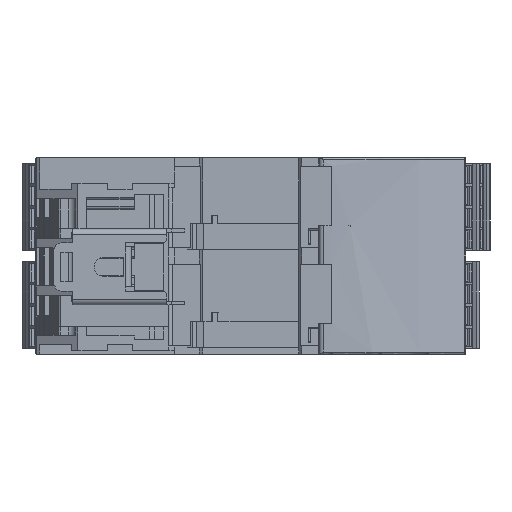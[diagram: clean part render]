
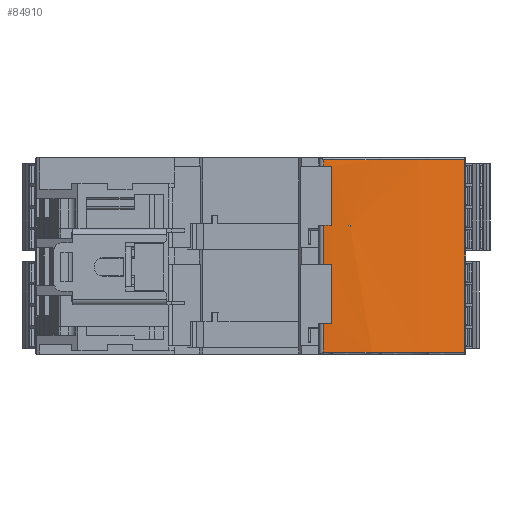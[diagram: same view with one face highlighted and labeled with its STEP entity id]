
A CAD part, front view. The second image highlights one B-rep face of the part: STEP entity #84910.
In plain terms, the highlighted cylindrical face has radius 80 mm (diameter 160 mm), a partial arc.
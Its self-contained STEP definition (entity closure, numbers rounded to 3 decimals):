
#787 = CARTESIAN_POINT ( 'NONE',  ( 18.047, -4.123, 7.1 ) ) ;
#1230 = CARTESIAN_POINT ( 'NONE',  ( 18.7, -4.081, 7.1 ) ) ;
#3927 = DIRECTION ( 'NONE',  ( 0., 0., 1. ) ) ;
#4293 = CARTESIAN_POINT ( 'NONE',  ( 22.9, -3.696, 29.4 ) ) ;
#4590 = CARTESIAN_POINT ( 'NONE',  ( 18.7, -4.081, 29.7 ) ) ;
#4885 = EDGE_CURVE ( 'NONE', #78748, #58240, #17034, .T. ) ;
#5658 = VERTEX_POINT ( 'NONE', #18708 ) ;
#6135 = CIRCLE ( 'NONE', #43341, 80. ) ;
#6233 = CARTESIAN_POINT ( 'NONE',  ( 13.5, 75.75, 0.5 ) ) ;
#7994 = CARTESIAN_POINT ( 'NONE',  ( 22.9, -3.696, 33.9 ) ) ;
#8834 =( BOUNDED_CURVE ( )  B_SPLINE_CURVE ( 3, ( #4293, #55170, #34985, #94563 ),
 .UNSPECIFIED., .F., .F. ) 
 B_SPLINE_CURVE_WITH_KNOTS ( ( 4, 4 ),
 ( 4.595, 4.598 ),
 .UNSPECIFIED. ) 
 CURVE ( )  GEOMETRIC_REPRESENTATION_ITEM ( )  RATIONAL_B_SPLINE_CURVE ( ( 1., 1., 1., 1. ) ) 
 REPRESENTATION_ITEM ( '' )  );
#8973 = VERTEX_POINT ( 'NONE', #57615 ) ;
#10574 = CARTESIAN_POINT ( 'NONE',  ( 22.6, -3.731, 29.7 ) ) ;
#11096 = DIRECTION ( 'NONE',  ( 0., 0., 1. ) ) ;
#11964 = CARTESIAN_POINT ( 'NONE',  ( 18.7, -4.081, 20.7 ) ) ;
#11967 = CARTESIAN_POINT ( 'NONE',  ( 16.741, -4.184, 20.7 ) ) ;
#12214 = FACE_OUTER_BOUND ( 'NONE', #24740, .T. ) ;
#12786 = AXIS2_PLACEMENT_3D ( 'NONE', #58196, #20870, #60770 ) ;
#12956 = LINE ( 'NONE', #124986, #77231 ) ;
#13569 = EDGE_CURVE ( 'NONE', #38832, #90337, #16316, .T. ) ;
#15244 = LINE ( 'NONE', #7994, #118768 ) ;
#16316 = B_SPLINE_CURVE_WITH_KNOTS ( 'NONE', 3,
 ( #10574, #99908, #68904, #50512 ),
 .UNSPECIFIED., .F., .F.,
 ( 4, 4 ),
 ( 0.928, 1. ),
 .UNSPECIFIED. ) ;
#16934 = CARTESIAN_POINT ( 'NONE',  ( 16.741, -4.184, 29.7 ) ) ;
#17034 = LINE ( 'NONE', #50427, #98547 ) ;
#17721 = EDGE_CURVE ( 'NONE', #121063, #85318, #45214, .T. ) ;
#18708 = CARTESIAN_POINT ( 'NONE',  ( 49.223, 4.169, 44.7 ) ) ;
#20593 = DIRECTION ( 'NONE',  ( 0., 0., -1. ) ) ;
#20870 = DIRECTION ( 'NONE',  ( 0., 0., -1. ) ) ;
#21936 = EDGE_CURVE ( 'NONE', #73053, #24722, #121310, .T. ) ;
#22461 = ORIENTED_EDGE ( 'NONE', *, *, #63852, .T. ) ;
#23307 = VERTEX_POINT ( 'NONE', #74212 ) ;
#23998 = CARTESIAN_POINT ( 'NONE',  ( 16.741, -4.184, 7.1 ) ) ;
#24722 = VERTEX_POINT ( 'NONE', #29127 ) ;
#24740 = EDGE_LOOP ( 'NONE', ( #47896, #49714, #22461, #114156, #102492, #68287, #59776, #89117, #79870, #100909, #78627, #49455 ) ) ;
#24985 = CARTESIAN_POINT ( 'NONE',  ( 22.9, -3.696, 29.7 ) ) ;
#26631 = CARTESIAN_POINT ( 'NONE',  ( 16.741, -4.184, 45.2 ) ) ;
#27167 = VERTEX_POINT ( 'NONE', #16934 ) ;
#27585 = CARTESIAN_POINT ( 'NONE',  ( 17.394, -4.158, 43.3 ) ) ;
#29127 = CARTESIAN_POINT ( 'NONE',  ( 16.741, -4.184, 0.5 ) ) ;
#32575 = LINE ( 'NONE', #39248, #87412 ) ;
#34080 = EDGE_CURVE ( 'NONE', #89699, #121063, #127999, .T. ) ;
#34985 = CARTESIAN_POINT ( 'NONE',  ( 22.7, -3.719, 29.6 ) ) ;
#38094 = CARTESIAN_POINT ( 'NONE',  ( 16.741, -4.184, 43.3 ) ) ;
#38729 = DIRECTION ( 'NONE',  ( 1., 0., 0. ) ) ;
#38832 = VERTEX_POINT ( 'NONE', #102851 ) ;
#39248 = CARTESIAN_POINT ( 'NONE',  ( 49.223, 4.169, 34.7 ) ) ;
#39609 = ORIENTED_EDGE ( 'NONE', *, *, #97860, .F. ) ;
#40199 = EDGE_CURVE ( 'NONE', #8973, #5658, #6135, .T. ) ;
#41115 = DIRECTION ( 'NONE',  ( -1., 0., 0. ) ) ;
#43341 = AXIS2_PLACEMENT_3D ( 'NONE', #83619, #3927, #124455 ) ;
#44559 = CARTESIAN_POINT ( 'NONE',  ( 22.9, -3.696, 29.4 ) ) ;
#45100 = CARTESIAN_POINT ( 'NONE',  ( 13.5, 75.75, 20.7 ) ) ;
#45214 = LINE ( 'NONE', #71243, #120563 ) ;
#47288 = CARTESIAN_POINT ( 'NONE',  ( 18.7, -4.081, 43.3 ) ) ;
#47896 = ORIENTED_EDGE ( 'NONE', *, *, #4885, .T. ) ;
#49455 = ORIENTED_EDGE ( 'NONE', *, *, #90723, .T. ) ;
#49714 = ORIENTED_EDGE ( 'NONE', *, *, #85790, .T. ) ;
#50427 = CARTESIAN_POINT ( 'NONE',  ( 18.7, -4.081, 34.7 ) ) ;
#50512 = CARTESIAN_POINT ( 'NONE',  ( 22.9, -3.696, 29.7 ) ) ;
#52619 = LINE ( 'NONE', #74708, #57230 ) ;
#55170 = CARTESIAN_POINT ( 'NONE',  ( 22.8, -3.708, 29.5 ) ) ;
#56638 = DIRECTION ( 'NONE',  ( 0., 0., -1. ) ) ;
#56872 = DIRECTION ( 'NONE',  ( 0., 0., 1. ) ) ;
#57230 = VECTOR ( 'NONE', #84254, 1000. ) ;
#57615 = CARTESIAN_POINT ( 'NONE',  ( 16.741, -4.184, 44.7 ) ) ;
#57927 = LINE ( 'NONE', #26631, #92318 ) ;
#58196 = CARTESIAN_POINT ( 'NONE',  ( 13.5, 75.75, 29.7 ) ) ;
#58240 = VERTEX_POINT ( 'NONE', #4590 ) ;
#59613 = ORIENTED_EDGE ( 'NONE', *, *, #13569, .T. ) ;
#59776 = ORIENTED_EDGE ( 'NONE', *, *, #86190, .T. ) ;
#60770 = DIRECTION ( 'NONE',  ( 1., 0., 0. ) ) ;
#61600 = AXIS2_PLACEMENT_3D ( 'NONE', #111580, #91855, #41115 ) ;
#62370 = CARTESIAN_POINT ( 'NONE',  ( 18.7, -4.081, 43.3 ) ) ;
#63595 = AXIS2_PLACEMENT_3D ( 'NONE', #45100, #124844, #115196 ) ;
#63852 = EDGE_CURVE ( 'NONE', #27167, #89699, #12956, .T. ) ;
#65555 = FACE_BOUND ( 'NONE', #80349, .T. ) ;
#68287 = ORIENTED_EDGE ( 'NONE', *, *, #128897, .T. ) ;
#68904 = CARTESIAN_POINT ( 'NONE',  ( 22.8, -3.708, 29.7 ) ) ;
#70607 = EDGE_CURVE ( 'NONE', #73053, #5658, #32575, .T. ) ;
#71243 = CARTESIAN_POINT ( 'NONE',  ( 18.7, -4.081, 23.85 ) ) ;
#71575 = B_SPLINE_CURVE_WITH_KNOTS ( 'NONE', 3,
 ( #38094, #27585, #88361, #47288 ),
 .UNSPECIFIED., .F., .F.,
 ( 4, 4 ),
 ( 0., 1. ),
 .UNSPECIFIED. ) ;
#73053 = VERTEX_POINT ( 'NONE', #85481 ) ;
#74212 = CARTESIAN_POINT ( 'NONE',  ( 16.741, -4.184, 7.1 ) ) ;
#74708 = CARTESIAN_POINT ( 'NONE',  ( 16.741, -4.184, 1.25 ) ) ;
#77231 = VECTOR ( 'NONE', #56638, 1000. ) ;
#78375 = CARTESIAN_POINT ( 'NONE',  ( 16.741, -4.184, 43.3 ) ) ;
#78627 = ORIENTED_EDGE ( 'NONE', *, *, #82328, .F. ) ;
#78748 = VERTEX_POINT ( 'NONE', #62370 ) ;
#79870 = ORIENTED_EDGE ( 'NONE', *, *, #70607, .T. ) ;
#80349 = EDGE_LOOP ( 'NONE', ( #39609, #121883, #59613 ) ) ;
#82328 = EDGE_CURVE ( 'NONE', #104114, #8973, #57927, .T. ) ;
#82530 = CYLINDRICAL_SURFACE ( 'NONE', #61600, 80. ) ;
#83619 = CARTESIAN_POINT ( 'NONE',  ( 13.5, 75.75, 44.7 ) ) ;
#84254 = DIRECTION ( 'NONE',  ( 0., 0., -1. ) ) ;
#84365 = CARTESIAN_POINT ( 'NONE',  ( 17.394, -4.158, 7.1 ) ) ;
#84910 = ADVANCED_FACE ( 'NONE', ( #65555, #12214 ), #82530, .T. ) ;
#85318 = VERTEX_POINT ( 'NONE', #88185 ) ;
#85481 = CARTESIAN_POINT ( 'NONE',  ( 49.223, 4.169, 0.5 ) ) ;
#85790 = EDGE_CURVE ( 'NONE', #58240, #27167, #93029, .T. ) ;
#86190 = EDGE_CURVE ( 'NONE', #23307, #24722, #52619, .T. ) ;
#87412 = VECTOR ( 'NONE', #11096, 1000. ) ;
#88185 = CARTESIAN_POINT ( 'NONE',  ( 18.7, -4.081, 7.1 ) ) ;
#88361 = CARTESIAN_POINT ( 'NONE',  ( 18.047, -4.123, 43.3 ) ) ;
#89117 = ORIENTED_EDGE ( 'NONE', *, *, #21936, .F. ) ;
#89699 = VERTEX_POINT ( 'NONE', #11967 ) ;
#90047 = DIRECTION ( 'NONE',  ( 0., 0., -1. ) ) ;
#90337 = VERTEX_POINT ( 'NONE', #24985 ) ;
#90723 = EDGE_CURVE ( 'NONE', #104114, #78748, #71575, .T. ) ;
#91855 = DIRECTION ( 'NONE',  ( 0., 0., -1. ) ) ;
#92318 = VECTOR ( 'NONE', #56872, 1000. ) ;
#93029 = CIRCLE ( 'NONE', #12786, 80. ) ;
#94563 = CARTESIAN_POINT ( 'NONE',  ( 22.6, -3.731, 29.7 ) ) ;
#97860 = EDGE_CURVE ( 'NONE', #110425, #90337, #15244, .T. ) ;
#98547 = VECTOR ( 'NONE', #20593, 1000. ) ;
#99908 = CARTESIAN_POINT ( 'NONE',  ( 22.7, -3.719, 29.7 ) ) ;
#100909 = ORIENTED_EDGE ( 'NONE', *, *, #40199, .F. ) ;
#102492 = ORIENTED_EDGE ( 'NONE', *, *, #17721, .T. ) ;
#102851 = CARTESIAN_POINT ( 'NONE',  ( 22.6, -3.731, 29.7 ) ) ;
#104114 = VERTEX_POINT ( 'NONE', #78375 ) ;
#107073 = DIRECTION ( 'NONE',  ( 0., 0., 1. ) ) ;
#108742 = DIRECTION ( 'NONE',  ( 0., 0., -1. ) ) ;
#110425 = VERTEX_POINT ( 'NONE', #44559 ) ;
#111580 = CARTESIAN_POINT ( 'NONE',  ( 13.5, 75.75, 34.7 ) ) ;
#113307 = B_SPLINE_CURVE_WITH_KNOTS ( 'NONE', 3,
 ( #1230, #787, #84365, #23998 ),
 .UNSPECIFIED., .F., .F.,
 ( 4, 4 ),
 ( 0.682, 1. ),
 .UNSPECIFIED. ) ;
#114156 = ORIENTED_EDGE ( 'NONE', *, *, #34080, .T. ) ;
#115196 = DIRECTION ( 'NONE',  ( 1., 0., 0. ) ) ;
#116029 = EDGE_CURVE ( 'NONE', #110425, #38832, #8834, .T. ) ;
#118768 = VECTOR ( 'NONE', #107073, 1000. ) ;
#120563 = VECTOR ( 'NONE', #90047, 1000. ) ;
#121063 = VERTEX_POINT ( 'NONE', #11964 ) ;
#121310 = CIRCLE ( 'NONE', #121891, 80. ) ;
#121883 = ORIENTED_EDGE ( 'NONE', *, *, #116029, .T. ) ;
#121891 = AXIS2_PLACEMENT_3D ( 'NONE', #6233, #108742, #38729 ) ;
#124455 = DIRECTION ( 'NONE',  ( -1., 0., 0. ) ) ;
#124844 = DIRECTION ( 'NONE',  ( 0., 0., 1. ) ) ;
#124986 = CARTESIAN_POINT ( 'NONE',  ( 16.741, -4.184, 23.85 ) ) ;
#127999 = CIRCLE ( 'NONE', #63595, 80. ) ;
#128897 = EDGE_CURVE ( 'NONE', #85318, #23307, #113307, .T. ) ;
